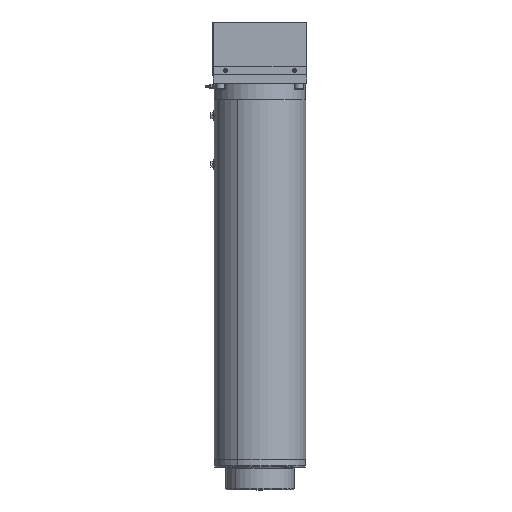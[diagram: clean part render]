
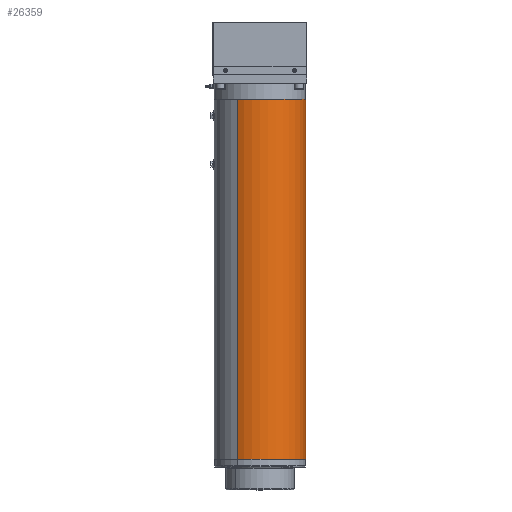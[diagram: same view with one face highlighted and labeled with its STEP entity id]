
A CAD part, top view. The second image highlights one B-rep face of the part: STEP entity #26359.
In plain terms, the highlighted cylindrical face has radius 120 mm (diameter 240 mm), a partial arc.
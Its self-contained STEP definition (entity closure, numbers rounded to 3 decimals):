
#539 = VECTOR ( 'NONE', #25124, 1000. ) ;
#800 = AXIS2_PLACEMENT_3D ( 'NONE', #32070, #35704, #39349 ) ;
#1734 = DIRECTION ( 'NONE',  ( -0.5, 0., 0.866 ) ) ;
#5536 = AXIS2_PLACEMENT_3D ( 'NONE', #42541, #20843, #31435 ) ;
#7667 = FACE_OUTER_BOUND ( 'NONE', #19176, .T. ) ;
#8355 = LINE ( 'NONE', #24189, #40085 ) ;
#10862 = ORIENTED_EDGE ( 'NONE', *, *, #22183, .T. ) ;
#12492 = ORIENTED_EDGE ( 'NONE', *, *, #35509, .F. ) ;
#12523 = CARTESIAN_POINT ( 'NONE',  ( -183.25, 20., -19.327 ) ) ;
#12916 = LINE ( 'NONE', #35848, #539 ) ;
#13635 = ORIENTED_EDGE ( 'NONE', *, *, #17087, .T. ) ;
#17087 = EDGE_CURVE ( 'NONE', #42145, #43399, #36267, .T. ) ;
#19176 = EDGE_LOOP ( 'NONE', ( #26757, #13635, #10862, #12492 ) ) ;
#20843 = DIRECTION ( 'NONE',  ( 0., -1., 0. ) ) ;
#22183 = EDGE_CURVE ( 'NONE', #43399, #31208, #8355, .T. ) ;
#24189 = CARTESIAN_POINT ( 'NONE',  ( -183.25, 0., -19.327 ) ) ;
#25124 = DIRECTION ( 'NONE',  ( 0., -1., 0. ) ) ;
#25331 = EDGE_CURVE ( 'NONE', #42145, #27680, #12916, .T. ) ;
#26359 = ADVANCED_FACE ( 'NONE', ( #7667 ), #37695, .T. ) ;
#26757 = ORIENTED_EDGE ( 'NONE', *, *, #25331, .F. ) ;
#26798 = DIRECTION ( 'NONE',  ( 0., -1., 0. ) ) ;
#27244 = CIRCLE ( 'NONE', #800, 120. ) ;
#27680 = VERTEX_POINT ( 'NONE', #30233 ) ;
#30233 = CARTESIAN_POINT ( 'NONE',  ( -63.25, 20., -227.173 ) ) ;
#30655 = AXIS2_PLACEMENT_3D ( 'NONE', #45090, #26798, #1734 ) ;
#31208 = VERTEX_POINT ( 'NONE', #12523 ) ;
#31435 = DIRECTION ( 'NONE',  ( -0.5, 0., 0.866 ) ) ;
#31726 = CARTESIAN_POINT ( 'NONE',  ( -63.25, 964., -227.173 ) ) ;
#32070 = CARTESIAN_POINT ( 'NONE',  ( -123.25, 20., -123.25 ) ) ;
#35509 = EDGE_CURVE ( 'NONE', #27680, #31208, #27244, .T. ) ;
#35704 = DIRECTION ( 'NONE',  ( 0., -1., 0. ) ) ;
#35848 = CARTESIAN_POINT ( 'NONE',  ( -63.25, 0., -227.173 ) ) ;
#36267 = CIRCLE ( 'NONE', #30655, 120. ) ;
#37695 = CYLINDRICAL_SURFACE ( 'NONE', #5536, 120. ) ;
#39349 = DIRECTION ( 'NONE',  ( -0.5, 0., 0.866 ) ) ;
#40040 = CARTESIAN_POINT ( 'NONE',  ( -183.25, 964., -19.327 ) ) ;
#40085 = VECTOR ( 'NONE', #42385, 1000. ) ;
#42145 = VERTEX_POINT ( 'NONE', #31726 ) ;
#42385 = DIRECTION ( 'NONE',  ( 0., -1., 0. ) ) ;
#42541 = CARTESIAN_POINT ( 'NONE',  ( -123.25, 0., -123.25 ) ) ;
#43399 = VERTEX_POINT ( 'NONE', #40040 ) ;
#45090 = CARTESIAN_POINT ( 'NONE',  ( -123.25, 964., -123.25 ) ) ;
